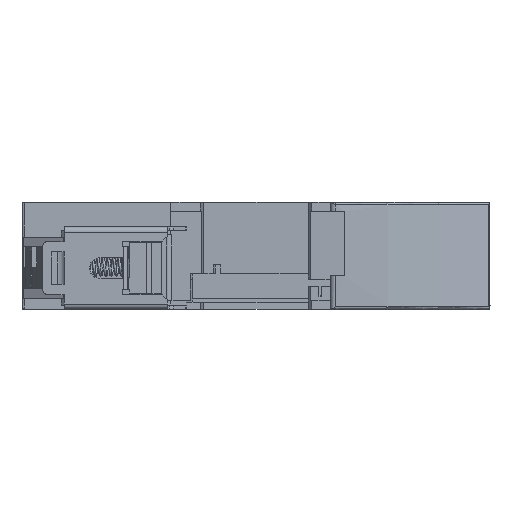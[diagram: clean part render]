
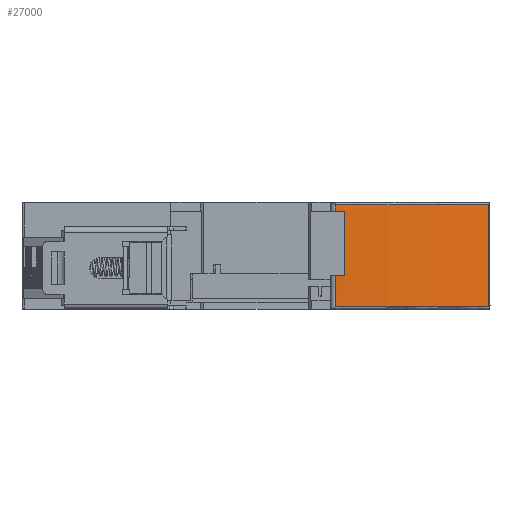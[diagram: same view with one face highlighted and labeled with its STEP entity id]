
A CAD part, front view. The second image highlights one B-rep face of the part: STEP entity #27000.
In plain terms, the highlighted cylindrical face has radius 80 mm (diameter 160 mm), a partial arc.
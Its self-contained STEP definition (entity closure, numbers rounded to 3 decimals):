
#3082=DIRECTION('',(0.,0.,1.));
#3083=VECTOR('',#3082,21.6);
#3084=CARTESIAN_POINT('',(49.223,56.569,-8.3));
#3085=LINE('',#3084,#3083);
#3100=DIRECTION('',(0.,0.,1.));
#3101=VECTOR('',#3100,6.6);
#3102=CARTESIAN_POINT('',(16.741,48.216,-8.3));
#3103=LINE('',#3102,#3101);
#3104=DIRECTION('',(0.,0.,1.));
#3105=VECTOR('',#3104,13.6);
#3106=CARTESIAN_POINT('',(18.7,48.319,-1.7));
#3107=LINE('',#3106,#3105);
#3108=DIRECTION('',(0.,0.,1.));
#3109=VECTOR('',#3108,1.4);
#3110=CARTESIAN_POINT('',(16.741,48.216,11.9));
#3111=LINE('',#3110,#3109);
#3116=CARTESIAN_POINT('',(16.741,48.216,-8.3));
#11237=CARTESIAN_POINT('',(13.5,128.15,13.3));
#11238=DIRECTION('',(0.,0.,-1.));
#11239=DIRECTION('',(0.447,-0.895,0.));
#11240=AXIS2_PLACEMENT_3D('',#11237,#11238,#11239);
#11271=CARTESIAN_POINT('',(13.5,128.15,11.9));
#11272=DIRECTION('',(0.,0.,1.));
#11273=DIRECTION('',(0.041,-0.999,0.));
#11274=AXIS2_PLACEMENT_3D('',#11271,#11272,#11273);
#11597=CARTESIAN_POINT('',(13.5,128.15,-1.7));
#11598=DIRECTION('',(0.,0.,-1.));
#11599=DIRECTION('',(0.065,-0.998,0.));
#11600=AXIS2_PLACEMENT_3D('',#11597,#11598,#11599);
#12244=CARTESIAN_POINT('',(13.5,128.15,-8.3));
#12245=DIRECTION('',(0.,0.,1.));
#12246=DIRECTION('',(0.041,-0.999,0.));
#12247=AXIS2_PLACEMENT_3D('',#12244,#12245,#12246);
#19971=VERTEX_POINT('',#3116);
#19972=CARTESIAN_POINT('',(49.223,56.569,
-8.3));
#19973=VERTEX_POINT('',#19972);
#22284=CARTESIAN_POINT('',(18.7,48.319,-1.7));
#22285=CARTESIAN_POINT('',(16.741,48.216,
-1.7));
#22286=VERTEX_POINT('',#22284);
#22287=VERTEX_POINT('',#22285);
#22288=CARTESIAN_POINT('',(18.7,48.319,11.9));
#22289=VERTEX_POINT('',#22288);
#22290=CARTESIAN_POINT('',(16.741,48.216,11.9));
#22291=VERTEX_POINT('',#22290);
#22292=CARTESIAN_POINT('',(16.741,48.216,13.3));
#22293=VERTEX_POINT('',#22292);
#22294=CARTESIAN_POINT('',(49.223,56.569,13.3));
#22295=VERTEX_POINT('',#22294);
#26978=CARTESIAN_POINT('',(13.5,128.15,-7.55));
#26979=DIRECTION('',(0.,0.,1.));
#26980=DIRECTION('',(1.,0.,0.));
#26981=AXIS2_PLACEMENT_3D('',#26978,#26979,#26980);
#26982=CYLINDRICAL_SURFACE('',#26981,80.);
#26984=ORIENTED_EDGE('',*,*,#26983,.T.);
#26986=ORIENTED_EDGE('',*,*,#26985,.F.);
#26988=ORIENTED_EDGE('',*,*,#26987,.T.);
#26990=ORIENTED_EDGE('',*,*,#26989,.F.);
#26992=ORIENTED_EDGE('',*,*,#26991,.T.);
#26994=ORIENTED_EDGE('',*,*,#26993,.F.);
#26995=ORIENTED_EDGE('',*,*,#26964,.F.);
#26997=ORIENTED_EDGE('',*,*,#26996,.F.);
#26998=EDGE_LOOP('',(#26984,#26986,#26988,#26990,#26992,#26994,#26995,#26997));
#26999=FACE_OUTER_BOUND('',#26998,.F.);
#27000=ADVANCED_FACE('',(#26999),#26982,.T.);
#11241=CIRCLE('',#11240,80.);
#11275=CIRCLE('',#11274,80.);
#11601=CIRCLE('',#11600,80.);
#12248=CIRCLE('',#12247,80.);
#26964=EDGE_CURVE('',#19973,#22295,#3085,.T.);
#26983=EDGE_CURVE('',#19971,#22287,#3103,.T.);
#26985=EDGE_CURVE('',#22286,#22287,#11601,.T.);
#26987=EDGE_CURVE('',#22286,#22289,#3107,.T.);
#26989=EDGE_CURVE('',#22291,#22289,#11275,.T.);
#26991=EDGE_CURVE('',#22291,#22293,#3111,.T.);
#26993=EDGE_CURVE('',#22295,#22293,#11241,.T.);
#26996=EDGE_CURVE('',#19971,#19973,#12248,.T.);
